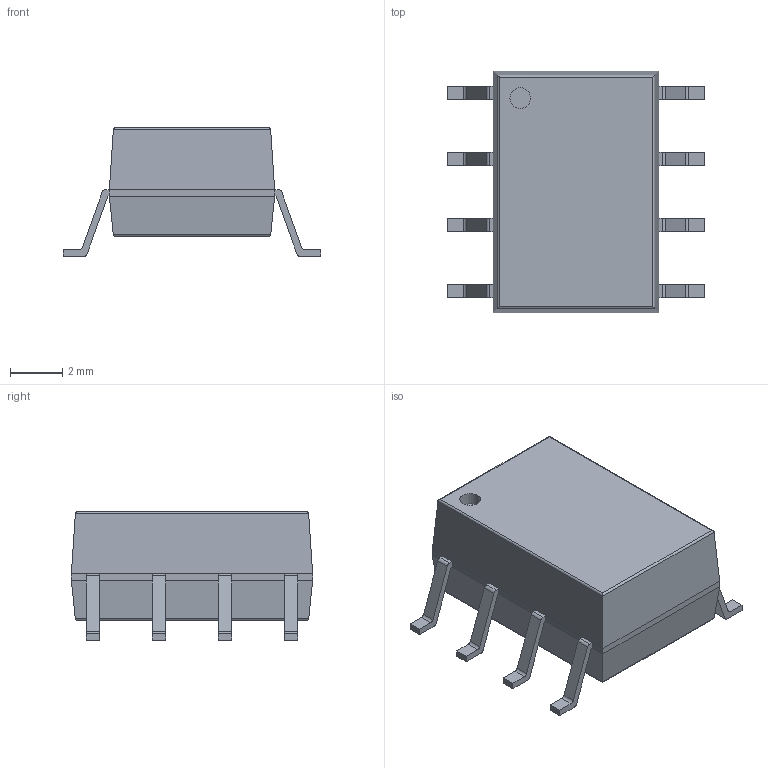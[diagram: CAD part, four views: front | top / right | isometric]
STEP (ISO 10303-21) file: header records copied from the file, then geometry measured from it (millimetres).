
FILE_DESCRIPTION(('FreeCAD Model'),'2;1');
FILE_NAME('/var/www/3D/0T/1134702.1.1.stp','2020-04-09T22:37:22',( 'Author'),(''),'Open CASCADE STEP processor 6.9','FreeCAD','Unknown' );
FILE_SCHEMA(('AUTOMOTIVE_DESIGN { 1 0 10303 214 1 1 1 1 }'));
Length unit declared in the file: millimetre
Products named in the file (3): ASSEMBLY; Body; PinsArrayLR
Assembly tree (2 placements, depth 2):
  ASSEMBLY
    Body
    PinsArrayLR
Bounding box: 9.91 x 9.27 x 4.94 mm (x, y, z)
Volume: 239.7 mm3; surface area: 279.4 mm2
Topology: 9 solids, 9 shells, 128 faces, 311 edges, 202 vertices
Faces by surface type: plane 95, cylinder 33
Full cylindrical faces by diameter (mm): 0.794 x1
Entity records: 8011 total; most frequent: CARTESIAN_POINT 1558, DIRECTION 1193, LINE 789, VECTOR 789, ORIENTED_EDGE 622, PCURVE 622, DEFINITIONAL_REPRESENTATION 622, EDGE_CURVE 311
